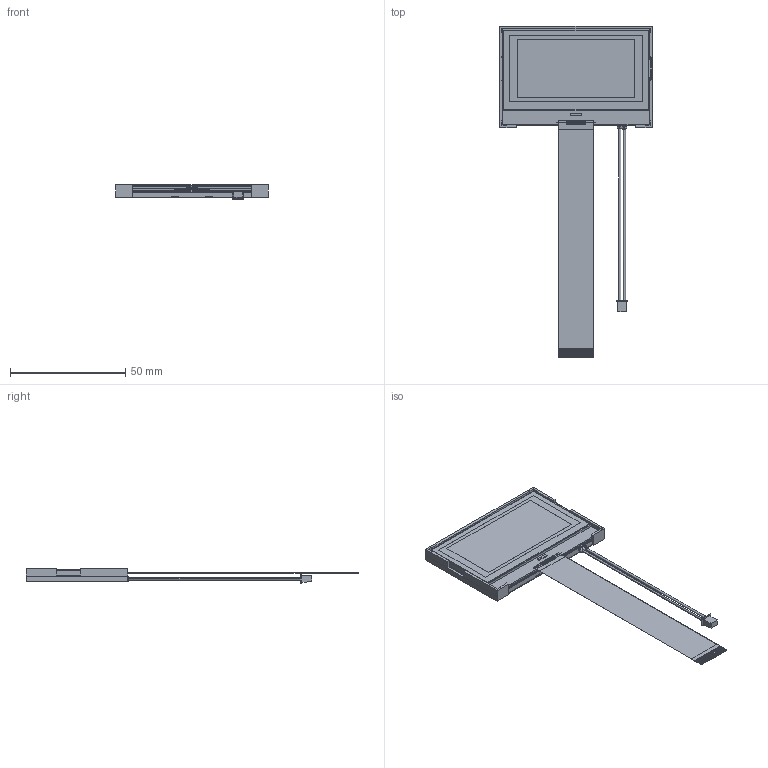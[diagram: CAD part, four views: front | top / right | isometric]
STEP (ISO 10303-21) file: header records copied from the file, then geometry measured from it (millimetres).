
FILE_DESCRIPTION (( 'STEP AP203' ), '1' );
FILE_NAME ('NHD-C12864WC-FSW-FBW-3V3.STEP', '2025-11-14T18:01:01', ( '' ), ( '' ), 'SwSTEP 2.0', 'SolidWorks 2019', '' );
FILE_SCHEMA (( 'CONFIG_CONTROL_DESIGN' ));
Length unit declared in the file: millimetre
Products named in the file (1): NHD-C12864WC-FSW-FBW-3V3
Bounding box: 66.1 x 144.05 x 6.4 mm (x, y, z)
Volume: 14616.7 mm3; surface area: 37871 mm2
Topology: 12 solids, 12 shells, 667 faces, 1881 edges, 1249 vertices
Faces by surface type: plane 625, cylinder 26, bspline 14, torus 2
Entity records: 21621 total; most frequent: CARTESIAN_POINT 4369, ORIENTED_EDGE 3762, DIRECTION 3212, EDGE_CURVE 1881, LINE 1784, VECTOR 1784, VERTEX_POINT 1249, AXIS2_PLACEMENT_3D 714
